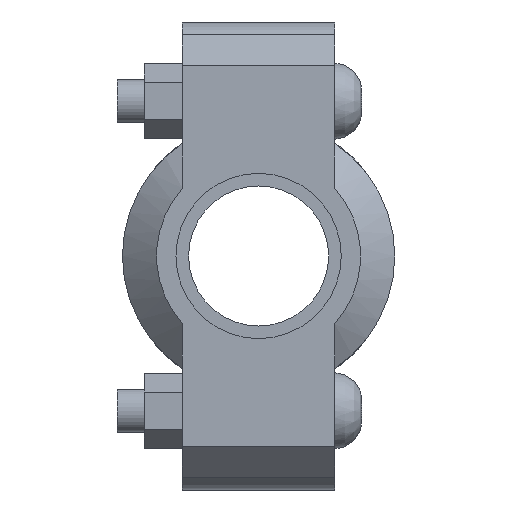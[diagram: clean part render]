
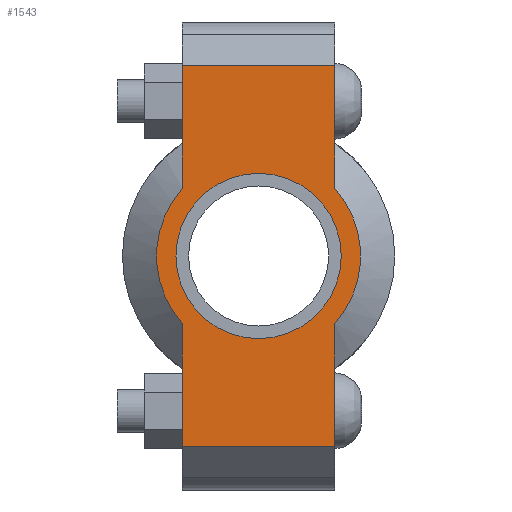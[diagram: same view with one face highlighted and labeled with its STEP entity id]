
A CAD part, left-side view. The second image highlights one B-rep face of the part: STEP entity #1543.
In plain terms, the highlighted planar face has unit normal (-1, 0, 0) as drawn and (0, 0, 1) by its records, which use the part's own axes.
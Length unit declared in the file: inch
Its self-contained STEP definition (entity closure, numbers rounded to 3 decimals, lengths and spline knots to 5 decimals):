
#154=LINE('',#2651,#249);
#169=LINE('',#2710,#264);
#177=LINE('',#2740,#272);
#179=LINE('',#2743,#274);
#180=LINE('',#2748,#275);
#181=LINE('',#2749,#276);
#249=VECTOR('',#2141,0.3937);
#264=VECTOR('',#2176,0.3937);
#272=VECTOR('',#2196,0.3937);
#274=VECTOR('',#2200,0.3937);
#275=VECTOR('',#2205,0.3937);
#276=VECTOR('',#2206,0.3937);
#336=FACE_BOUND('',#495,.T.);
#396=FACE_OUTER_BOUND('',#494,.T.);
#494=EDGE_LOOP('',(#1238,#1239,#1240,#1241,#1242,#1243,#1244,#1245));
#495=EDGE_LOOP('',(#1246));
#600=CIRCLE('',#1806,1.172);
#601=CIRCLE('',#1807,1.172);
#602=CIRCLE('',#1808,0.95);
#709=VERTEX_POINT('',#2648);
#710=VERTEX_POINT('',#2650);
#731=VERTEX_POINT('',#2705);
#732=VERTEX_POINT('',#2709);
#741=VERTEX_POINT('',#2735);
#742=VERTEX_POINT('',#2739);
#743=VERTEX_POINT('',#2745);
#744=VERTEX_POINT('',#2747);
#745=VERTEX_POINT('',#2751);
#879=EDGE_CURVE('',#710,#709,#154,.T.);
#904=EDGE_CURVE('',#732,#731,#169,.T.);
#917=EDGE_CURVE('',#742,#741,#177,.T.);
#919=EDGE_CURVE('',#742,#709,#179,.T.);
#920=EDGE_CURVE('',#741,#743,#600,.T.);
#921=EDGE_CURVE('',#743,#744,#180,.T.);
#922=EDGE_CURVE('',#732,#744,#181,.T.);
#923=EDGE_CURVE('',#731,#710,#601,.T.);
#924=EDGE_CURVE('',#745,#745,#602,.T.);
#1238=ORIENTED_EDGE('',*,*,#919,.F.);
#1239=ORIENTED_EDGE('',*,*,#917,.T.);
#1240=ORIENTED_EDGE('',*,*,#920,.T.);
#1241=ORIENTED_EDGE('',*,*,#921,.T.);
#1242=ORIENTED_EDGE('',*,*,#922,.F.);
#1243=ORIENTED_EDGE('',*,*,#904,.T.);
#1244=ORIENTED_EDGE('',*,*,#923,.T.);
#1245=ORIENTED_EDGE('',*,*,#879,.T.);
#1246=ORIENTED_EDGE('',*,*,#924,.T.);
#1395=PLANE('',#1805);
#1543=ADVANCED_FACE('',(#396,#336),#1395,.T.);
#1805=AXIS2_PLACEMENT_3D('',#2744,#2201,#2202);
#1806=AXIS2_PLACEMENT_3D('',#2746,#2203,#2204);
#1807=AXIS2_PLACEMENT_3D('',#2750,#2207,#2208);
#1808=AXIS2_PLACEMENT_3D('',#2752,#2209,#2210);
#2141=DIRECTION('',(1.,0.,0.));
#2176=DIRECTION('',(1.,0.,0.));
#2196=DIRECTION('',(-1.,0.,0.));
#2200=DIRECTION('',(0.,-1.,0.));
#2201=DIRECTION('center_axis',(0.,0.,1.));
#2202=DIRECTION('ref_axis',(-1.,0.,0.));
#2203=DIRECTION('center_axis',(0.,0.,1.));
#2204=DIRECTION('ref_axis',(1.,0.,0.));
#2205=DIRECTION('',(-1.,0.,0.));
#2206=DIRECTION('',(0.,1.,0.));
#2207=DIRECTION('center_axis',(0.,0.,1.));
#2208=DIRECTION('ref_axis',(1.,0.,0.));
#2209=DIRECTION('center_axis',(0.,0.,-1.));
#2210=DIRECTION('ref_axis',(1.,0.,0.));
#2648=CARTESIAN_POINT('',(2.19,-0.875,0.94));
#2650=CARTESIAN_POINT('',(0.77972,-0.875,0.94));
#2651=CARTESIAN_POINT('',(-2.69,-0.875,0.94));
#2705=CARTESIAN_POINT('',(-0.77972,-0.875,0.94));
#2709=CARTESIAN_POINT('',(-2.19,-0.875,0.94));
#2710=CARTESIAN_POINT('',(-2.69,-0.875,0.94));
#2735=CARTESIAN_POINT('',(0.77972,0.875,0.94));
#2739=CARTESIAN_POINT('',(2.19,0.875,0.94));
#2740=CARTESIAN_POINT('',(2.69,0.875,0.94));
#2743=CARTESIAN_POINT('',(2.19,-0.4375,0.94));
#2744=CARTESIAN_POINT('Origin',(0.,0.,
0.94));
#2745=CARTESIAN_POINT('',(-0.77972,0.875,0.94));
#2746=CARTESIAN_POINT('Origin',(0.,0.,0.94));
#2747=CARTESIAN_POINT('',(-2.19,0.875,0.94));
#2748=CARTESIAN_POINT('',(2.69,0.875,0.94));
#2749=CARTESIAN_POINT('',(-2.19,0.4375,0.94));
#2750=CARTESIAN_POINT('Origin',(0.,0.,0.94));
#2751=CARTESIAN_POINT('',(-0.95,0.,0.94));
#2752=CARTESIAN_POINT('Origin',(0.,0.,0.94));
